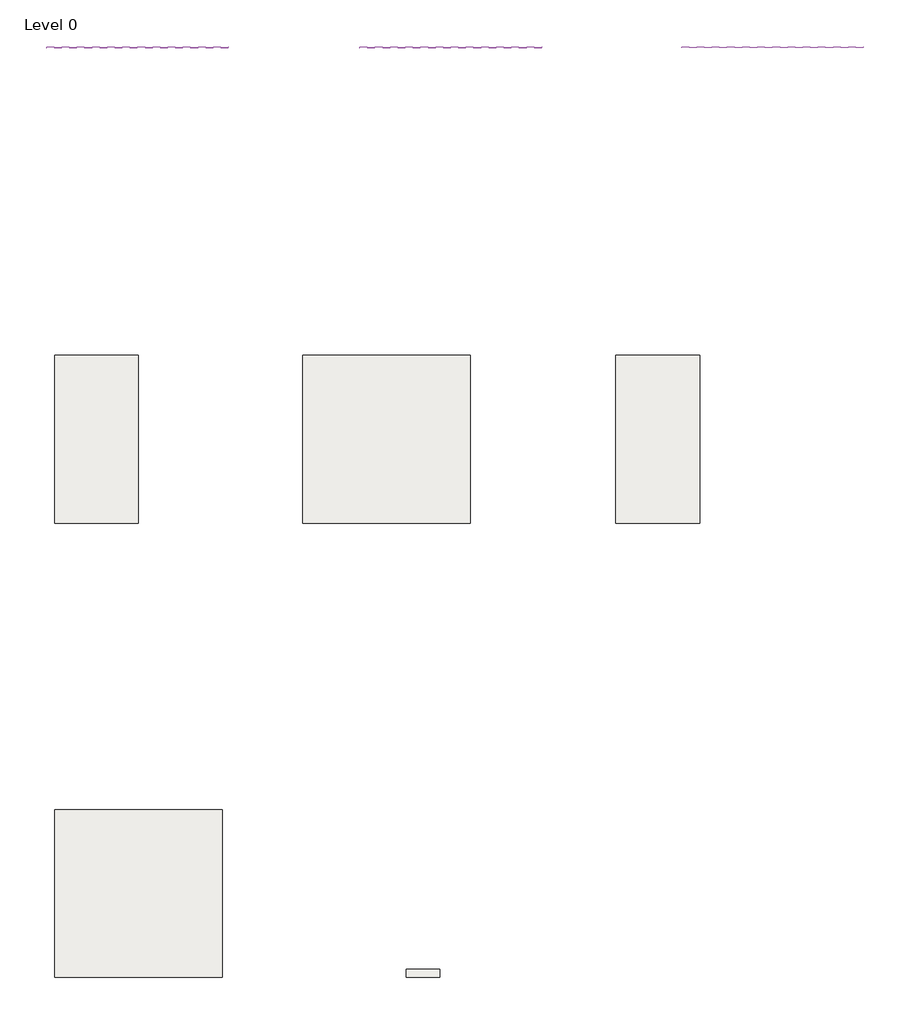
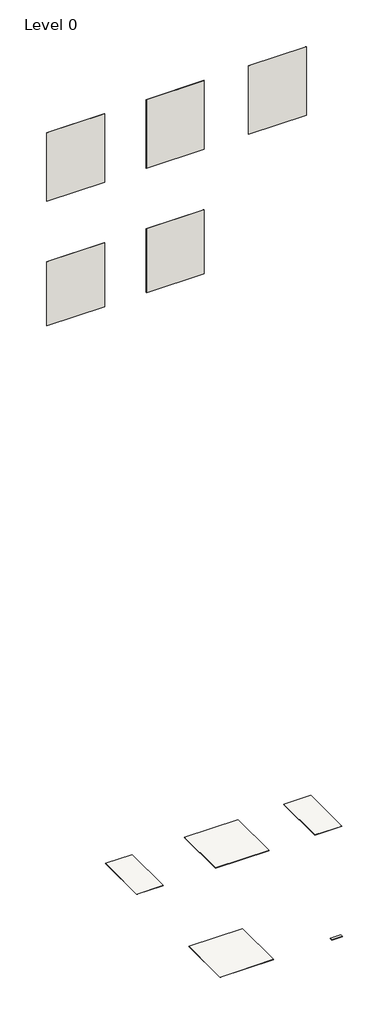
# One storey: 5 slabs, 5 walls.
"""IFC4 building model written with IfcOpenShell, lengths in millimetres."""

from ifc_helpers import new_model, si_unit, frame, origin, place, context, project, spatial, polyline, outline, extrude, element, save

model = new_model("IFC4")

# Units and contexts
model_context = context("Model", 3, world=origin())
ifc_project = project(units=[si_unit("LENGTHUNIT", "METRE", prefix="MILLI")], contexts=[model_context])

# Site, building, storey
site = spatial("IfcSite", under=ifc_project)
building = spatial("IfcBuilding", under=site)
storey = spatial("IfcBuildingStorey", under=building, Name="Level 0", Elevation=0.0)

# Slabs
placement = place(None, origin())
element("IfcSlab", 1, ObjectType="Floor_Tiles_Refin-Cera-Luce-Cerasilk_60x120_RA34", at=placement, inside=storey, context=model_context, shape_type="SweptSolid", body=[
    extrude(outline(polyline([(6574.3752062, 5938.4192064), (6574.3752062, 4738.4192064), (5974.3752062, 4738.4192064), (5974.3752062, 5938.4192064), (6574.3752062, 5938.4192064)])), frame((0.0, 0.0, -10.0), z_axis=(0.0, 0.0, 1.0), x_axis=(1.0, 0.0, 0.0)), (0.0, 0.0, 1.0), 10.0),
])
element("IfcSlab", 2, ObjectType="Floor_Tiles_Refin-Cera-Luce-Cerasilk_120x120_RA31", at=placement, inside=storey, context=model_context, shape_type="SweptSolid", body=[
    extrude(outline(polyline([(8947.3924055, 5938.4192064), (8947.3924055, 4738.4192064), (7747.3924055, 4738.4192064), (7747.3924055, 5938.4192064), (8947.3924055, 5938.4192064)])), frame((0.0, 0.0, -10.0), z_axis=(0.0, 0.0, 1.0), x_axis=(1.0, 0.0, 0.0)), (0.0, 0.0, 1.0), 10.0),
])
element("IfcSlab", 3, ObjectType="Floor_Tiles_Refin-Cera-Luce-Matt-Pro_60x120_RD56", at=placement, inside=storey, context=model_context, shape_type="SweptSolid", body=[
    extrude(outline(polyline([(10587.3924055, 5938.4192064), (10587.3924055, 4738.4192064), (9987.3924055, 4738.4192064), (9987.3924055, 5938.4192064), (10587.3924055, 5938.4192064)])), frame((0.0, 0.0, -10.0), z_axis=(0.0, 0.0, 1.0), x_axis=(1.0, 0.0, 0.0)), (0.0, 0.0, 1.0), 10.0),
])
element("IfcSlab", 4, ObjectType="Floor_Tiles_Refin-Cera-Luce-Matt-Pro_120x120_RD53", at=placement, inside=storey, context=model_context, shape_type="SweptSolid", body=[
    extrude(outline(polyline([(7174.3752062, 2689.4623743), (7174.3752062, 1489.4623743), (5974.3752062, 1489.4623743), (5974.3752062, 2689.4623743), (7174.3752062, 2689.4623743)])), frame((0.0, 0.0, -10.0), z_axis=(0.0, 0.0, 1.0), x_axis=(1.0, 0.0, 0.0)), (0.0, 0.0, 1.0), 10.0),
])
element("IfcSlab", 5, ObjectType="Floor_Tiles_Refin-Cera-Wax-Luce_6x24_RC65", at=placement, inside=storey, context=model_context, shape_type="SweptSolid", body=[
    extrude(outline(polyline([(8729.9551117, 1549.4623743), (8729.9551117, 1489.4623743), (8489.9551117, 1489.4623743), (8489.9551117, 1549.4623743), (8729.9551117, 1549.4623743)])), frame((0.0, 0.0, -9.5), z_axis=(0.0, 0.0, 1.0), x_axis=(1.0, 0.0, 0.0)), (0.0, 0.0, 1.0), 9.5),
])

# Walls
element("IfcWall", 6, ObjectType="Wall_Tiles_Refin-Cera-Luce-Cerasilk_60x120_RA34", at=placement, inside=storey, context=model_context, shape_type="SweptSolid", body=[
    extrude(outline(polyline([(7217.3752062, 8132.3838631), (5917.3752062, 8132.3838631), (5917.3752062, 8142.3838631), (7217.3752062, 8142.3838631), (7217.3752062, 8132.3838631)])), frame((0.0, 0.0, 14403.7267346), z_axis=(0.0, 0.0, 1.0), x_axis=(1.0, 0.0, 0.0)), (0.0, 0.0, 1.0), 1625.692045),
])
element("IfcWall", 7, ObjectType="Wall_Tiles_Refin-Cera-Luce-Cerasilk_120x120_RA31", at=placement, inside=storey, context=model_context, shape_type="SweptSolid", body=[
    extrude(outline(polyline([(9457.3752062, 8132.3838631), (8157.3752062, 8132.3838631), (8157.3752062, 8142.3838631), (9457.3752062, 8142.3838631), (9457.3752062, 8132.3838631)])), frame((0.0, 0.0, 14403.7267346), z_axis=(0.0, 0.0, 1.0), x_axis=(1.0, 0.0, 0.0)), (0.0, 0.0, 1.0), 1625.692045),
])
element("IfcWall", 8, ObjectType="Wall_Tiles_Refin-Cera-Luce-Matt-Pro_60x120_RD56", at=placement, inside=storey, context=model_context, shape_type="SweptSolid", body=[
    extrude(outline(polyline([(11757.3752062, 8132.3838631), (10457.3752062, 8132.3838631), (10457.3752062, 8142.3838631), (11757.3752062, 8142.3838631), (11757.3752062, 8132.3838631)])), frame((0.0, 0.0, 14403.7267346), z_axis=(0.0, 0.0, 1.0), x_axis=(1.0, 0.0, 0.0)), (0.0, 0.0, 1.0), 1625.692045),
])
element("IfcWall", 9, ObjectType="Wall_Tiles_Refin-Cera-Luce-Matt-Pro_120x120_RD53", at=placement, inside=storey, context=model_context, shape_type="SweptSolid", body=[
    extrude(outline(polyline([(5917.3752062, 8142.3838631), (7217.3752062, 8142.3838631), (7217.3752062, 8132.3838631), (5917.3752062, 8132.3838631), (5917.3752062, 8142.3838631)])), frame((0.0, 0.0, 11452.5436262), z_axis=(0.0, 0.0, 1.0), x_axis=(1.0, 0.0, 0.0)), (0.0, 0.0, 1.0), 1513.1985566),
])
element("IfcWall", 10, ObjectType="Wall_Tiles_Refin-Cera-Wax-Luce_6x24_RC65", at=placement, inside=storey, context=model_context, shape_type="SweptSolid", body=[
    extrude(outline(polyline([(9457.3752062, 8132.6338631), (8157.3752062, 8132.6338631), (8157.3752062, 8142.1338631), (9457.3752062, 8142.1338631), (9457.3752062, 8132.6338631)])), frame((0.0, 0.0, 11452.5436262), z_axis=(0.0, 0.0, 1.0), x_axis=(1.0, 0.0, 0.0)), (0.0, 0.0, 1.0), 1513.1985566),
])

save(model, "model.ifc")
